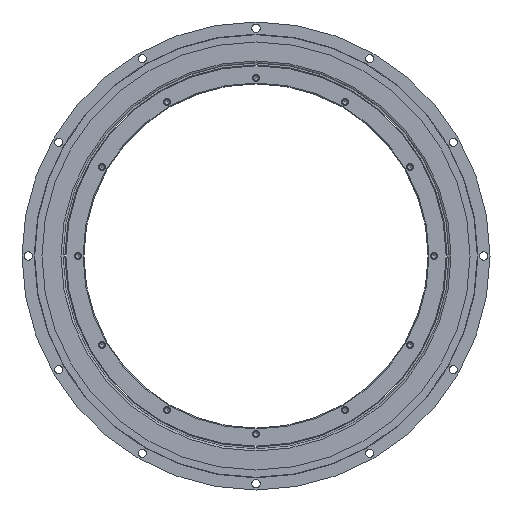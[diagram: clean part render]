
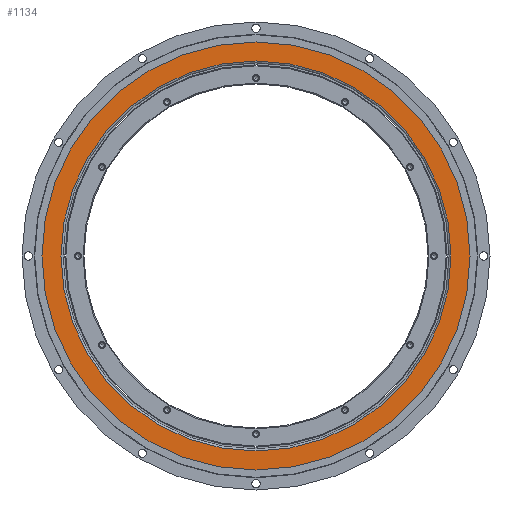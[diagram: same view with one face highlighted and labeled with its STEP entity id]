
A CAD part, front view. The second image highlights one B-rep face of the part: STEP entity #1134.
In plain terms, the highlighted planar face has unit normal (0, -1, 0) as drawn and (1, 0, 0) by its records, which use the part's own axes.
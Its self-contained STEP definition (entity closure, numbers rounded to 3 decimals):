
#1134=ADVANCED_FACE('',(#2280,#2282),#2284,.T.);
#2280=FACE_BOUND('',#2281,.T.);
#2281=EDGE_LOOP('',(#2669));
#2282=FACE_BOUND('',#2283,.T.);
#2283=EDGE_LOOP('',(#2670));
#2284=PLANE('',#2285);
#2285=AXIS2_PLACEMENT_3D('',#2286,#2287,#2288);
#2286=CARTESIAN_POINT('',(-0.001,0.,0.));
#2287=DIRECTION('',(1.,0.,0.));
#2288=DIRECTION('',(0.,0.,-1.));
#2669=ORIENTED_EDGE('',*,*,#2815,.T.);
#2670=ORIENTED_EDGE('',*,*,#2817,.F.);
#2815=EDGE_CURVE('',#3060,#3060,#3061,.T.);
#2817=EDGE_CURVE('',#3064,#3064,#3065,.F.);
#3060=VERTEX_POINT('',#3664);
#3061=CIRCLE('',#3665,219.5);
#3064=VERTEX_POINT('',#3674);
#3065=CIRCLE('',#3675,200.);
#3664=CARTESIAN_POINT('',(-0.001,0.,-219.5));
#3665=AXIS2_PLACEMENT_3D('',#3666,#3667,#3668);
#3666=CARTESIAN_POINT('',(-0.001,0.,0.));
#3667=DIRECTION('',(1.,0.,0.));
#3668=DIRECTION('',(0.,0.,-1.));
#3674=CARTESIAN_POINT('',(-0.001,0.,200.));
#3675=AXIS2_PLACEMENT_3D('',#3676,#3677,#3678);
#3676=CARTESIAN_POINT('',(-0.001,0.,0.));
#3677=DIRECTION('',(-1.,0.,0.));
#3678=DIRECTION('',(0.,0.,1.));
